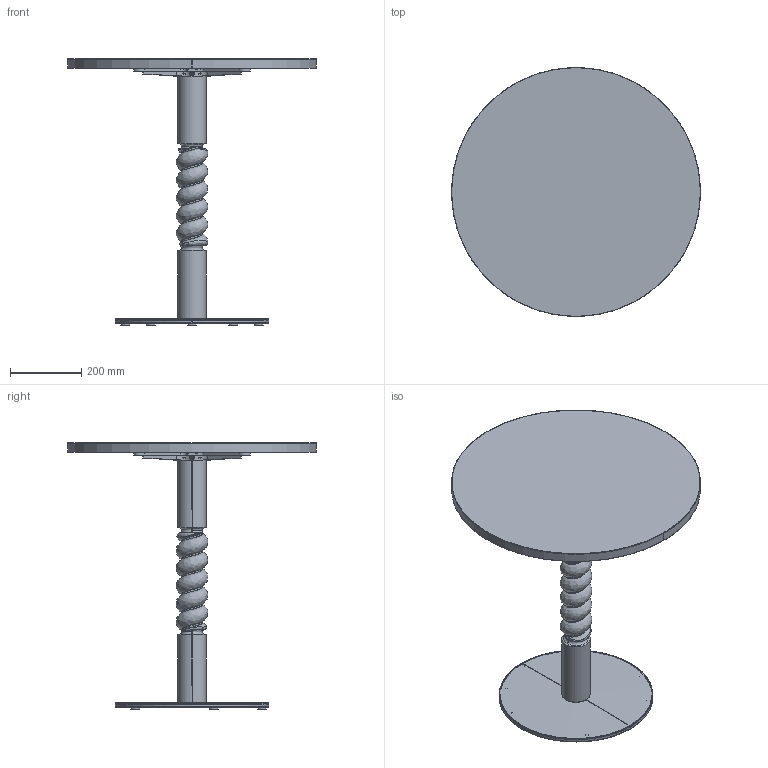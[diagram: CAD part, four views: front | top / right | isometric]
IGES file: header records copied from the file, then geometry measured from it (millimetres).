
Start section: SolidWorks IGES file using analytic representation for surfaces
Global section: file name: C:\Users\Adao\Documents\Trab Adao\Desenho técnico PRODUÇÃO\J M S\MESAS\ALVOR\MESA ALVOR MM-542 3d\Mesa ALVOR MM-541.IGS; native system: SolidWorks 2012; preprocessor: SolidWorks 2012; author: Adao; date: 121219.181944; units: millimetre
Bounding box: 700 x 700 x 750.46 mm (x, y, z)
Surface area: 2582488.4 mm2 (no closed solid volume)
Topology: 0 solids, 0 shells, 562 faces, 11439 edges, 11437 vertices
Faces by surface type: revolution 322, bspline 240
